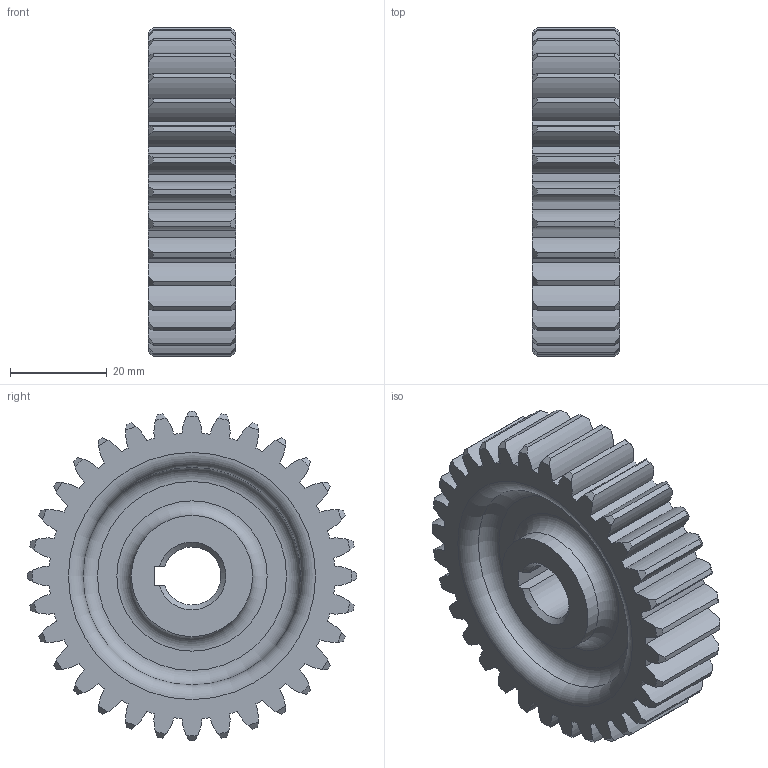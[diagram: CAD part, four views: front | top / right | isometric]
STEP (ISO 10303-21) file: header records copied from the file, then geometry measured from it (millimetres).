
FILE_DESCRIPTION(/* description */ (''),/* implementation_level */ '2;1');
FILE_NAME(/* name */ 'C:\Users\PC-1-3\Desktop\610406E1009\610406E1009-스퍼기어.stp',/* time_stamp */ '2021-04-17T11:22:11+09:00',/* author */ ('PC-1-3'),/* organization */ (''),/* preprocessor_version */ 'ST-DEVELOPER v16.1',/* originating_system */ 'Autodesk Inventor 2016',/* authorisation */ '');
FILE_SCHEMA (('AUTOMOTIVE_DESIGN { 1 0 10303 214 3 1 1 }'));
Length unit declared in the file: millimetre
Products named in the file (1): 610406E1009
Bounding box: 18 x 68 x 68 mm (x, y, z)
Volume: 42056.8 mm3; surface area: 15655.8 mm2
Topology: 1 solids, 1 shells, 212 faces, 614 edges, 408 vertices
Faces by surface type: cylinder 131, cone 66, plane 9, torus 6
Full cylindrical faces by diameter (mm): 25 x2
Entity records: 7274 total; most frequent: CARTESIAN_POINT 1619, DIRECTION 1236, ORIENTED_EDGE 1212, EDGE_CURVE 606, AXIS2_PLACEMENT_3D 549, VERTEX_POINT 408, CIRCLE 336, EDGE_LOOP 226
